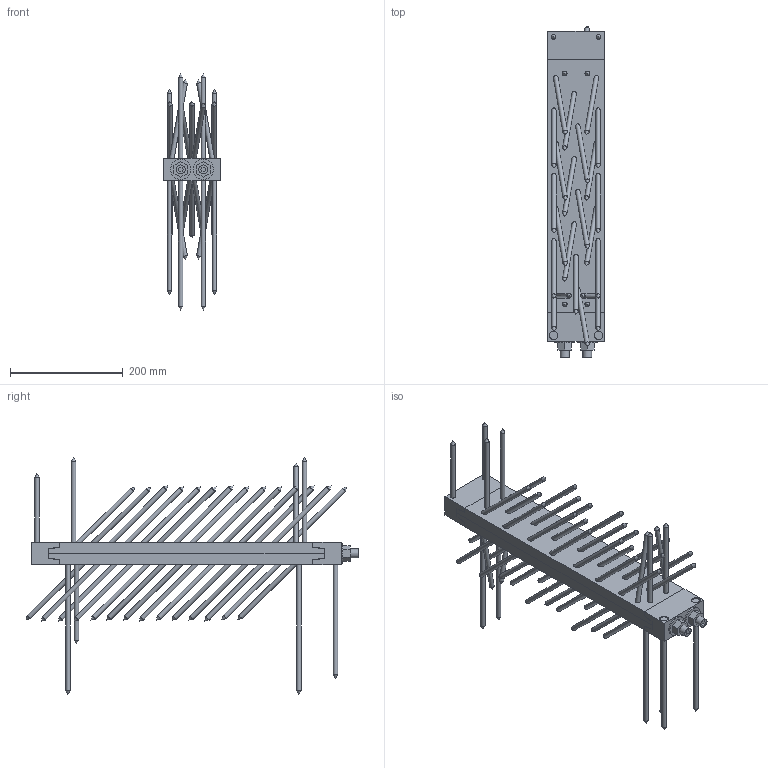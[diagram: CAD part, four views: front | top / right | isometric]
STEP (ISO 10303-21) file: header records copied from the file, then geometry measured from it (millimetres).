
FILE_DESCRIPTION(/* description */ ('Unknown'),/* implementation_level */ '2;1');
FILE_NAME(/* name */ 'MEGANT_550x100x40_Sichtbar',/* time_stamp */ '2020-05-06T08:18:06+02:00',/* author */ ('Unknown'),/* organization */ ('Unknown'),/* preprocessor_version */ 'ST-DEVELOPER v16.7',/* originating_system */ 'DEX',/* authorisation */ $);
FILE_SCHEMA (('AUTOMOTIVE_DESIGN {1 0 10303 214 3 1 1}'));
Length unit declared in the file: millimetre
Products named in the file (14): MEGANT_550x100x40_Sichtbar; Verbinderplatte_490x100x20_NT; Verbinderplatte_490x100x20; SK_Schraube_8x240; SK_Schraube_8x160; Verbinderplatte_490x100x20_HT; Spannbacke_oben_100x50x40_NT; Spannbacke_oben_100x50x40; Spannbacke_unten_100x50x40_HT; Spannbacke_unten_100x50x40; Gewindestange_M16_L580; Beilagscheibe_M16; Mutter_M16
Assembly tree (71 placements, depth 3):
  MEGANT_550x100x40_Sichtbar
    Verbinderplatte_490x100x20_NT
      Verbinderplatte_490x100x20
      SK_Schraube_8x240  x4
      SK_Schraube_8x160  x23
    Verbinderplatte_490x100x20_HT
      Verbinderplatte_490x100x20
      SK_Schraube_8x160  x27
    Spannbacke_oben_100x50x40_NT
      Spannbacke_oben_100x50x40
      SK_Schraube_8x240  x2
    Spannbacke_unten_100x50x40_HT
      Spannbacke_unten_100x50x40
      SK_Schraube_8x160  x2
    Gewindestange_M16_L580  x2
      Gewindestange_M16_L580
      Beilagscheibe_M16
      Mutter_M16
Bounding box: 100 x 589.49 x 420 mm (x, y, z)
Volume: 2473119.9 mm3; surface area: 686287.2 mm2
Topology: 68 solids, 68 shells, 662 faces, 1540 edges, 966 vertices
Faces by surface type: cylinder 252, plane 236, cone 174
Full cylindrical faces by diameter (mm): 8 x58, 8.5 x58, 13.835 x2, 14 x2, 15 x116, 16 x2, 17 x4, 36 x2
Entity records: 6779 total; most frequent: DIRECTION 1146, CARTESIAN_POINT 1021, ORIENTED_EDGE 820, AXIS2_PLACEMENT_3D 449, EDGE_CURVE 410, FACE_BOUND 402, EDGE_LOOP 400, VERTEX_POINT 324
